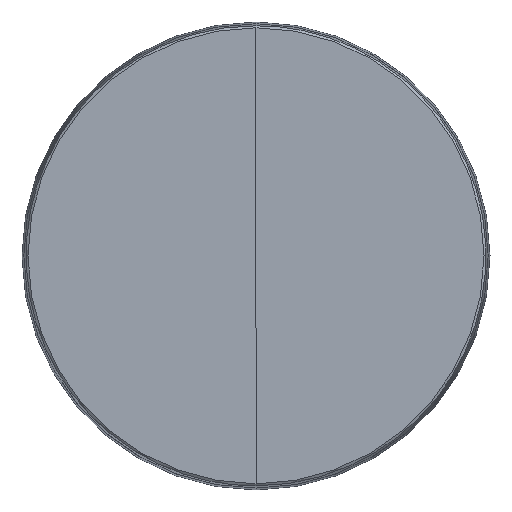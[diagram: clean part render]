
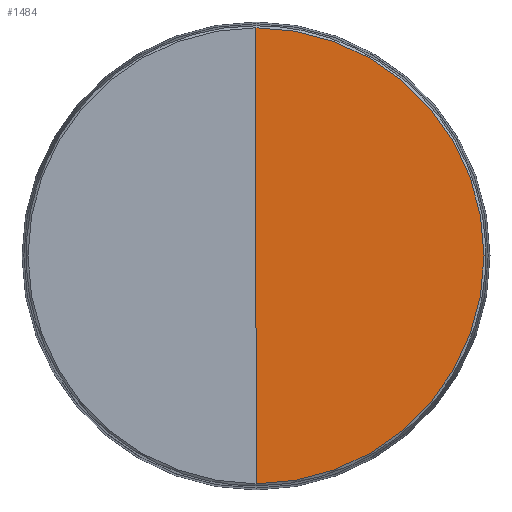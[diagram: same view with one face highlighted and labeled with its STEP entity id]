
A CAD part, top view. The second image highlights one B-rep face of the part: STEP entity #1484.
In plain terms, the highlighted planar face has unit normal (0, 0, 1).
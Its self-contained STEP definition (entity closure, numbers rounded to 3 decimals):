
#184=FACE_OUTER_BOUND('',#283,.T.);
#283=EDGE_LOOP('',(#1144,#1145));
#377=CIRCLE('',#1622,77.955);
#468=LINE('',#2823,#574);
#574=VECTOR('',#1930,304.8);
#694=VERTEX_POINT('',#2820);
#695=VERTEX_POINT('',#2821);
#858=EDGE_CURVE('',#694,#695,#377,.T.);
#859=EDGE_CURVE('',#695,#694,#468,.T.);
#1144=ORIENTED_EDGE('',*,*,#858,.F.);
#1145=ORIENTED_EDGE('',*,*,#859,.F.);
#1413=PLANE('',#1621);
#1484=ADVANCED_FACE('',(#184),#1413,.F.);
#1621=AXIS2_PLACEMENT_3D('',#2819,#1926,#1927);
#1622=AXIS2_PLACEMENT_3D('',#2822,#1928,#1929);
#1926=DIRECTION('center_axis',(0.,0.,-1.));
#1927=DIRECTION('ref_axis',(0.,-1.,0.));
#1928=DIRECTION('center_axis',(0.,0.,-1.));
#1929=DIRECTION('ref_axis',(-1.,0.,0.));
#1930=DIRECTION('',(0.,1.,0.));
#2819=CARTESIAN_POINT('Origin',(0.,0.,350.));
#2820=CARTESIAN_POINT('',(0.,77.955,350.));
#2821=CARTESIAN_POINT('',(0.,-77.955,350.));
#2822=CARTESIAN_POINT('Origin',(0.,0.,350.));
#2823=CARTESIAN_POINT('',(0.,0.,350.));
